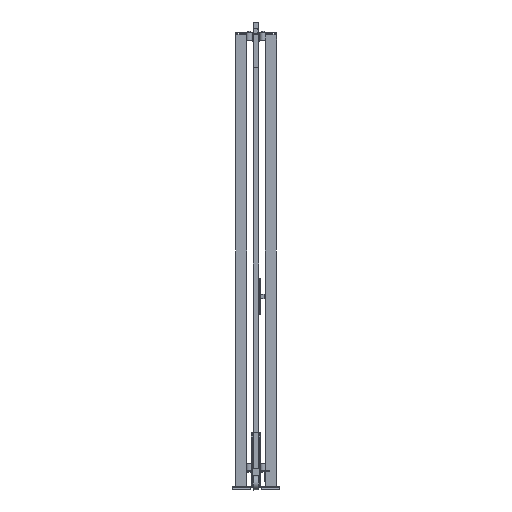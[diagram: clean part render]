
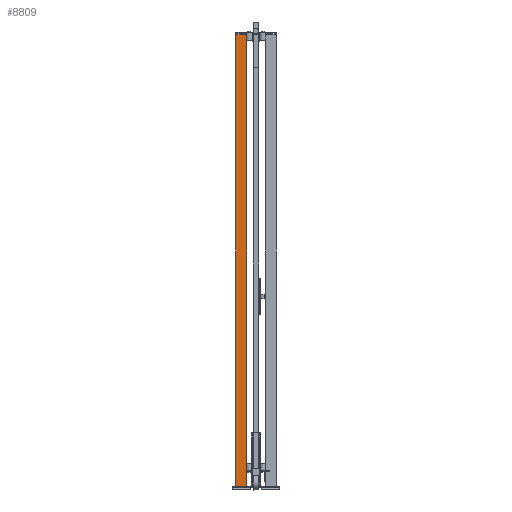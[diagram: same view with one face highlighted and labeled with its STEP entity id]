
A CAD part, left-side view. The second image highlights one B-rep face of the part: STEP entity #8809.
In plain terms, the highlighted planar face has unit normal (-1, 0, 0) as drawn and (0, 1, 0) by its records, which use the part's own axes.
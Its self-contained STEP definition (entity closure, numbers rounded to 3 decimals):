
#841=FACE_OUTER_BOUND('',#1501,.T.);
#1501=EDGE_LOOP('',(#5279,#5280,#5281,#5282));
#2228=VERTEX_POINT('',#18088);
#2229=VERTEX_POINT('',#18090);
#2231=VERTEX_POINT('',#18096);
#2234=VERTEX_POINT('',#18101);
#3464=EDGE_CURVE('',#2228,#2229,#10207,.T.);
#3470=EDGE_CURVE('',#2234,#2231,#10213,.T.);
#3473=EDGE_CURVE('',#2229,#2234,#10216,.T.);
#3474=EDGE_CURVE('',#2228,#2231,#10217,.T.);
#5279=ORIENTED_EDGE('',*,*,#3474,.T.);
#5280=ORIENTED_EDGE('',*,*,#3470,.F.);
#5281=ORIENTED_EDGE('',*,*,#3473,.F.);
#5282=ORIENTED_EDGE('',*,*,#3464,.F.);
#8217=PLANE('',#13137);
#8809=ADVANCED_FACE('',(#841),#8217,.F.);
#10207=LINE('',#18091,#11758);
#10213=LINE('',#18103,#11764);
#10216=LINE('',#18108,#11767);
#10217=LINE('',#18110,#11768);
#11758=VECTOR('',#14376,1.);
#11764=VECTOR('',#14384,1.);
#11767=VECTOR('',#14391,1.);
#11768=VECTOR('',#14394,1.);
#13137=AXIS2_PLACEMENT_3D('',#18109,#14392,#14393);
#14376=DIRECTION('',(-1.,0.,0.));
#14384=DIRECTION('',(1.,0.,0.));
#14391=DIRECTION('',(0.,0.,-1.));
#14392=DIRECTION('center_axis',(0.,-1.,0.));
#14393=DIRECTION('ref_axis',(0.,0.,-1.));
#14394=DIRECTION('',(0.,0.,-1.));
#18088=CARTESIAN_POINT('',(30.,30.,2520.));
#18090=CARTESIAN_POINT('',(-30.,30.,2520.));
#18091=CARTESIAN_POINT('',(0.,30.,2520.));
#18096=CARTESIAN_POINT('',(30.,30.,20.));
#18101=CARTESIAN_POINT('',(-30.,30.,20.));
#18103=CARTESIAN_POINT('',(0.,30.,20.));
#18108=CARTESIAN_POINT('',(-30.,30.,1270.));
#18109=CARTESIAN_POINT('Origin',(0.,30.,
1270.));
#18110=CARTESIAN_POINT('',(30.,30.,1270.));
